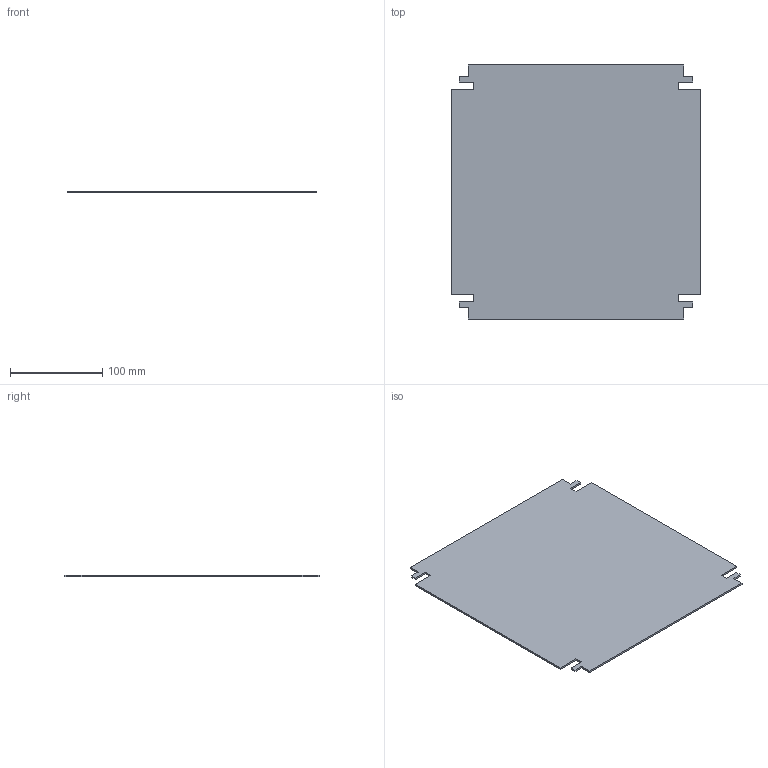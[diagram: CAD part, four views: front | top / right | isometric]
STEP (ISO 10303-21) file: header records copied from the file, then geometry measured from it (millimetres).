
FILE_DESCRIPTION( ( 'STEP AP214' ), '1' );
FILE_NAME( 'p:/temp/worker_128/temp/exporttempdir_4644_212_LE7dm/format_0/BMP3030(0).stp', '2021-03-15T14:04:38', ( 'License CC BY-ND 4.0' ), ( 'CADENAS' ), ' ', 'PARTsolutions', ' ' );
FILE_SCHEMA( ( 'AUTOMOTIVE_DESIGN { 1 0 10303 214 1 1 1 1 }' ) );
Length unit declared in the file: millimetre
Products named in the file (1): _BMP3030(0)
Bounding box: 270 x 275 x 2 mm (x, y, z)
Volume: 144720.8 mm3; surface area: 147150.4 mm2
Topology: 1 solids, 1 shells, 30 faces, 84 edges, 56 vertices
Faces by surface type: plane 30
Entity records: 1204 total; most frequent: CARTESIAN_POINT 171, ORIENTED_EDGE 168, DIRECTION 146, EDGE_CURVE 84, LINE 84, VECTOR 84, VERTEX_POINT 56, AXIS2_PLACEMENT_3D 31
